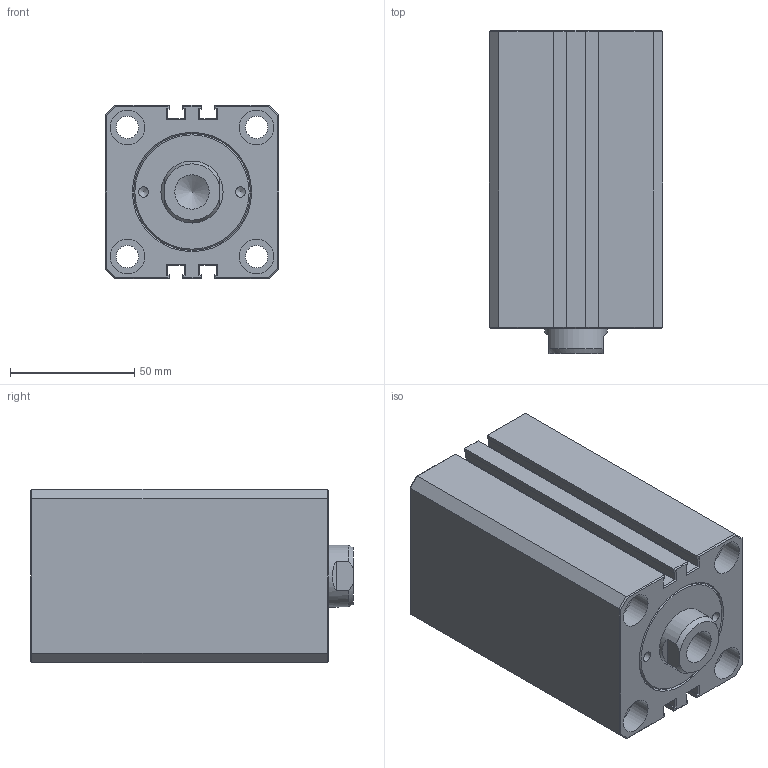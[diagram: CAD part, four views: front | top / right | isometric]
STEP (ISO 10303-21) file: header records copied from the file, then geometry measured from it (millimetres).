
FILE_DESCRIPTION(/* description */ ('Unknown'),/* implementation_level */ '2;1');
FILE_NAME(/* name */ 'HTM140-SD40X50N',/* time_stamp */ '2022-09-01T01:30:48+08:00',/* author */ ('Unknown'),/* organization */ ('Unknown'),/* preprocessor_version */ 'ST-DEVELOPER v16.7',/* originating_system */ 'DEX',/* authorisation */ $);
FILE_SCHEMA (('AUTOMOTIVE_DESIGN {1 0 10303 214 3 1 1}'));
Length unit declared in the file: millimetre
Products named in the file (1): HTM140-SD40X50N
Bounding box: 70 x 130 x 70 mm (x, y, z)
Volume: 528294.5 mm3; surface area: 65243.4 mm2
Topology: 1 solids, 1 shells, 187 faces, 428 edges, 257 vertices
Faces by surface type: plane 140, cylinder 19, cone 16, bspline 12
Full cylindrical faces by diameter (mm): 4.1 x2, 6 x1, 9 x4, 12.301 x2, 13.835 x1, 14 x8, 25 x1
Entity records: 6351 total; most frequent: CARTESIAN_POINT 1059, ORIENTED_EDGE 778, DIRECTION 768, EDGE_CURVE 389, LINE 294, VECTOR 294, VERTEX_POINT 248, FACE_BOUND 239
